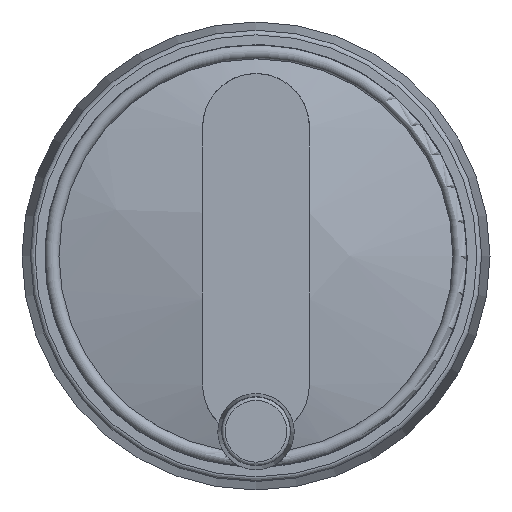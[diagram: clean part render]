
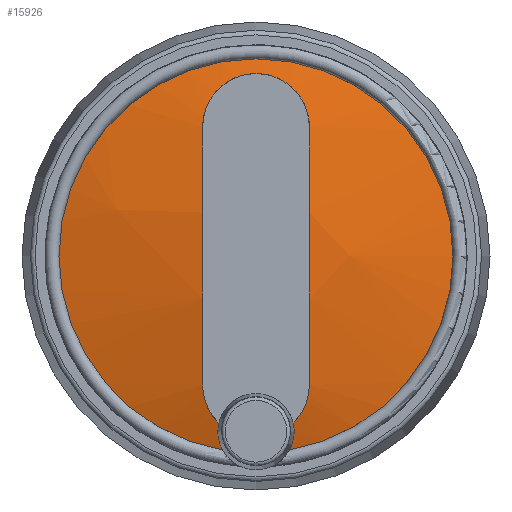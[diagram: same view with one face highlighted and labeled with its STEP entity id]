
A CAD part, top view. The second image highlights one B-rep face of the part: STEP entity #15926.
In plain terms, the highlighted spherical face has radius 118.228 mm.
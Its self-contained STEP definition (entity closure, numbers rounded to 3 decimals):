
#15765=CARTESIAN_POINT('',(438.377,101.522,13.822));
#15766=VERTEX_POINT('',#15765);
#15773=CARTESIAN_POINT('',(435.583,100.317,17.501));
#15774=VERTEX_POINT('',#15773);
#15775=CARTESIAN_POINT('',(435.583,100.317,17.501));
#15776=CARTESIAN_POINT('',(436.011,100.445,17.234));
#15777=CARTESIAN_POINT('',(436.4,100.576,16.92));
#15778=CARTESIAN_POINT('',(437.316,100.916,16.005));
#15779=CARTESIAN_POINT('',(437.818,101.146,15.271));
#15780=CARTESIAN_POINT('',(438.237,101.415,14.254));
#15781=CARTESIAN_POINT('',(438.313,101.469,14.039));
#15782=CARTESIAN_POINT('',(438.377,101.522,13.822));
#15783=B_SPLINE_CURVE_WITH_KNOTS('',3,(#15775,#15776,#15777,#15778,#15779,#15780,#15781,#15782),.UNSPECIFIED.,.F.,.U.,(4,2,2,4),(0.848,0.996,1.25,1.315),.UNSPECIFIED.);
#15784=EDGE_CURVE('',#15774,#15766,#15783,.T.);
#15803=CARTESIAN_POINT('',(426.627,100.317,8.545));
#15804=VERTEX_POINT('',#15803);
#15811=CARTESIAN_POINT('',(430.306,101.522,5.751));
#15812=VERTEX_POINT('',#15811);
#15813=CARTESIAN_POINT('',(430.306,101.522,5.751));
#15814=CARTESIAN_POINT('',(430.089,101.469,5.815));
#15815=CARTESIAN_POINT('',(429.874,101.415,5.891));
#15816=CARTESIAN_POINT('',(428.857,101.146,6.31));
#15817=CARTESIAN_POINT('',(428.123,100.916,6.812));
#15818=CARTESIAN_POINT('',(427.207,100.576,7.728));
#15819=CARTESIAN_POINT('',(426.894,100.445,8.117));
#15820=CARTESIAN_POINT('',(426.627,100.317,8.545));
#15821=B_SPLINE_CURVE_WITH_KNOTS('',3,(#15813,#15814,#15815,#15816,#15817,#15818,#15819,#15820),.UNSPECIFIED.,.F.,.U.,(4,2,2,4),(2.669,2.735,2.988,3.136),.UNSPECIFIED.);
#15822=EDGE_CURVE('',#15812,#15804,#15821,.T.);
#15839=CARTESIAN_POINT('',(410.928,101.522,33.2));
#15840=DIRECTION('',(0.0,1.0,0.0));
#15841=DIRECTION('',(0.707,0.0,-0.707));
#15842=AXIS2_PLACEMENT_3D('',#15839,#15840,#15841);
#15843=CIRCLE('',#15842,33.6);
#15844=EDGE_CURVE('',#15812,#15766,#15843,.T.);
#15851=CARTESIAN_POINT('',(410.928,214.875,33.2));
#15852=DIRECTION('',(0.0,0.0,1.0));
#15853=DIRECTION('',(1.0,0.0,0.0));
#15854=AXIS2_PLACEMENT_3D('',#15851,#15852,#15853);
#15855=SPHERICAL_SURFACE('',#15854,118.228);
#15856=ORIENTED_EDGE('',*,*,#15822,.T.);
#15857=CARTESIAN_POINT('',(420.05,99.069,11.209));
#15858=VERTEX_POINT('',#15857);
#15859=CARTESIAN_POINT('',(426.627,100.317,8.545));
#15860=CARTESIAN_POINT('',(426.579,100.31,8.544));
#15861=CARTESIAN_POINT('',(426.532,100.304,8.544));
#15862=CARTESIAN_POINT('',(425.336,100.142,8.544));
#15863=CARTESIAN_POINT('',(424.115,99.945,8.774));
#15864=CARTESIAN_POINT('',(421.875,99.517,9.704));
#15865=CARTESIAN_POINT('',(420.855,99.285,10.404));
#15866=CARTESIAN_POINT('',(420.05,99.069,11.209));
#15867=B_SPLINE_CURVE_WITH_KNOTS('',3,(#15859,#15860,#15861,#15862,#15863,#15864,#15865,#15866),.UNSPECIFIED.,.F.,.U.,(4,2,2,4),(-0.71,-0.695,-0.348,0.0),.UNSPECIFIED.);
#15868=EDGE_CURVE('',#15804,#15858,#15867,.T.);
#15869=ORIENTED_EDGE('',*,*,#15868,.T.);
#15870=CARTESIAN_POINT('',(388.937,99.069,42.322));
#15871=VERTEX_POINT('',#15870);
#15872=CARTESIAN_POINT('',(404.493,214.875,26.765));
#15873=DIRECTION('',(-0.707,0.0,-0.707));
#15874=DIRECTION('',(0.0,1.0,0.0));
#15875=AXIS2_PLACEMENT_3D('',#15872,#15873,#15874);
#15876=CIRCLE('',#15875,117.878);
#15877=EDGE_CURVE('',#15858,#15871,#15876,.T.);
#15878=ORIENTED_EDGE('',*,*,#15877,.T.);
#15879=CARTESIAN_POINT('',(401.806,99.069,55.191));
#15880=VERTEX_POINT('',#15879);
#15881=CARTESIAN_POINT('',(388.937,99.069,42.322));
#15882=CARTESIAN_POINT('',(388.128,99.286,43.131));
#15883=CARTESIAN_POINT('',(387.426,99.519,44.156));
#15884=CARTESIAN_POINT('',(386.496,99.949,46.408));
#15885=CARTESIAN_POINT('',(386.267,100.146,47.635));
#15886=CARTESIAN_POINT('',(386.276,100.455,49.92));
#15887=CARTESIAN_POINT('',(386.504,100.589,51.131));
#15888=CARTESIAN_POINT('',(387.431,100.766,53.363));
#15889=CARTESIAN_POINT('',(388.13,100.81,54.384));
#15890=CARTESIAN_POINT('',(389.744,100.81,55.998));
#15891=CARTESIAN_POINT('',(390.765,100.766,56.697));
#15892=CARTESIAN_POINT('',(392.997,100.589,57.624));
#15893=CARTESIAN_POINT('',(394.208,100.455,57.852));
#15894=CARTESIAN_POINT('',(396.493,100.146,57.86));
#15895=CARTESIAN_POINT('',(397.72,99.949,57.632));
#15896=CARTESIAN_POINT('',(399.972,99.519,56.702));
#15897=CARTESIAN_POINT('',(400.997,99.286,56.));
#15898=CARTESIAN_POINT('',(401.806,99.069,55.191));
#15899=B_SPLINE_CURVE_WITH_KNOTS('',3,(#15881,#15882,#15883,#15884,#15885,#15886,#15887,#15888,#15889,#15890,#15891,#15892,#15893,#15894,#15895,#15896,#15897,#15898),.UNSPECIFIED.,.F.,.U.,(4,2,2,2,2,2,2,2,4),(-2.767,-2.418,-2.069,-1.726,-1.384,-1.041,-0.699,-0.349,0.0),.UNSPECIFIED.);
#15900=EDGE_CURVE('',#15871,#15880,#15899,.T.);
#15901=ORIENTED_EDGE('',*,*,#15900,.T.);
#15902=CARTESIAN_POINT('',(432.919,99.069,24.078));
#15903=VERTEX_POINT('',#15902);
#15904=CARTESIAN_POINT('',(417.363,214.875,39.635));
#15905=DIRECTION('',(0.707,0.0,0.707));
#15906=DIRECTION('',(0.0,-1.0,0.0));
#15907=AXIS2_PLACEMENT_3D('',#15904,#15905,#15906);
#15908=CIRCLE('',#15907,117.878);
#15909=EDGE_CURVE('',#15880,#15903,#15908,.T.);
#15910=ORIENTED_EDGE('',*,*,#15909,.T.);
#15911=CARTESIAN_POINT('',(432.919,99.069,24.078));
#15912=CARTESIAN_POINT('',(433.728,99.286,23.269));
#15913=CARTESIAN_POINT('',(434.43,99.519,22.244));
#15914=CARTESIAN_POINT('',(435.36,99.949,19.992));
#15915=CARTESIAN_POINT('',(435.588,100.146,18.765));
#15916=CARTESIAN_POINT('',(435.584,100.307,17.575));
#15917=CARTESIAN_POINT('',(435.584,100.312,17.538));
#15918=CARTESIAN_POINT('',(435.583,100.317,17.501));
#15919=B_SPLINE_CURVE_WITH_KNOTS('',3,(#15911,#15912,#15913,#15914,#15915,#15916,#15917,#15918),.UNSPECIFIED.,.F.,.U.,(4,2,2,4),(-2.767,-2.418,-2.069,-2.057),.UNSPECIFIED.);
#15920=EDGE_CURVE('',#15903,#15774,#15919,.T.);
#15921=ORIENTED_EDGE('',*,*,#15920,.T.);
#15922=ORIENTED_EDGE('',*,*,#15784,.T.);
#15923=ORIENTED_EDGE('',*,*,#15844,.F.);
#15924=EDGE_LOOP('',(#15856,#15869,#15878,#15901,#15910,#15921,#15922,#15923));
#15925=FACE_OUTER_BOUND('',#15924,.T.);
#15926=ADVANCED_FACE('',(#15925),#15855,.T.);
